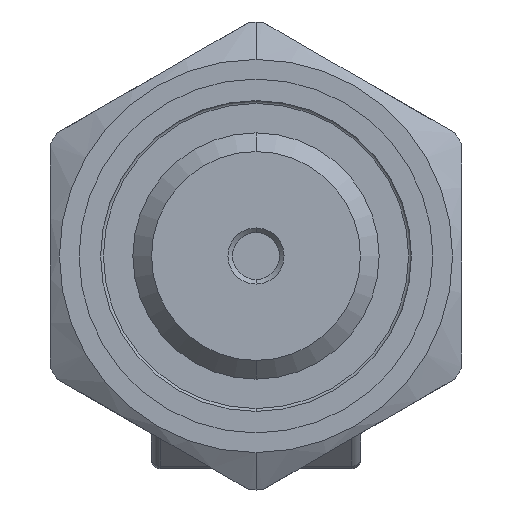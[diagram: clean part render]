
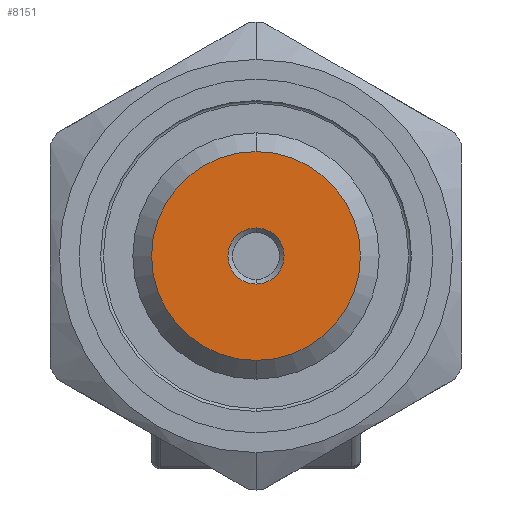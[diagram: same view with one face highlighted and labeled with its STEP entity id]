
A CAD part, front view. The second image highlights one B-rep face of the part: STEP entity #8151.
In plain terms, the highlighted planar face has unit normal (0, -1, 0).
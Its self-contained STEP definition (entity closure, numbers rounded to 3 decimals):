
#548 = DIRECTION ( 'NONE',  ( 0., -1., 0. ) ) ;
#642 = CARTESIAN_POINT ( 'NONE',  ( 0., 0., 0. ) ) ;
#810 = CARTESIAN_POINT ( 'NONE',  ( 0., 0., 0. ) ) ;
#1063 = EDGE_LOOP ( 'NONE', ( #14926, #6543 ) ) ;
#1438 = ORIENTED_EDGE ( 'NONE', *, *, #9059, .T. ) ;
#1863 = EDGE_LOOP ( 'NONE', ( #1438, #6686 ) ) ;
#1874 = DIRECTION ( 'NONE',  ( 0., 0., -1. ) ) ;
#2034 = DIRECTION ( 'NONE',  ( 0., 0., -1. ) ) ;
#2984 = EDGE_CURVE ( 'NONE', #7278, #15551, #15213, .T. ) ;
#3501 = DIRECTION ( 'NONE',  ( 0., -1., 0. ) ) ;
#3748 = DIRECTION ( 'NONE',  ( 0., -1., 0. ) ) ;
#4272 = AXIS2_PLACEMENT_3D ( 'NONE', #642, #9355, #1874 ) ;
#5482 = CIRCLE ( 'NONE', #6313, 5.579 ) ;
#6313 = AXIS2_PLACEMENT_3D ( 'NONE', #11217, #3748, #12477 ) ;
#6543 = ORIENTED_EDGE ( 'NONE', *, *, #2984, .T. ) ;
#6632 = EDGE_CURVE ( 'NONE', #10127, #15796, #11436, .T. ) ;
#6686 = ORIENTED_EDGE ( 'NONE', *, *, #6632, .T. ) ;
#6844 = CIRCLE ( 'NONE', #4272, 1.5 ) ;
#7278 = VERTEX_POINT ( 'NONE', #13858 ) ;
#7325 = FACE_BOUND ( 'NONE', #1063, .T. ) ;
#8151 = ADVANCED_FACE ( 'NONE', ( #7325, #13929 ), #12948, .T. ) ;
#9059 = EDGE_CURVE ( 'NONE', #15796, #10127, #5482, .T. ) ;
#9255 = DIRECTION ( 'NONE',  ( 0., 0., -1. ) ) ;
#9355 = DIRECTION ( 'NONE',  ( 0., 1., 0. ) ) ;
#9445 = CARTESIAN_POINT ( 'NONE',  ( 0., 0., 5.579 ) ) ;
#9525 = DIRECTION ( 'NONE',  ( 0., 1., 0. ) ) ;
#10127 = VERTEX_POINT ( 'NONE', #14819 ) ;
#10972 = CARTESIAN_POINT ( 'NONE',  ( 0., 0., 0. ) ) ;
#11115 = AXIS2_PLACEMENT_3D ( 'NONE', #14202, #548, #9255 ) ;
#11217 = CARTESIAN_POINT ( 'NONE',  ( 0., 0., 0. ) ) ;
#11436 = CIRCLE ( 'NONE', #14305, 5.579 ) ;
#12220 = DIRECTION ( 'NONE',  ( 0., 0., -1. ) ) ;
#12477 = DIRECTION ( 'NONE',  ( 0., 0., -1. ) ) ;
#12510 = CARTESIAN_POINT ( 'NONE',  ( 0., 0., -1.5 ) ) ;
#12816 = AXIS2_PLACEMENT_3D ( 'NONE', #810, #9525, #2034 ) ;
#12948 = PLANE ( 'NONE',  #11115 ) ;
#13858 = CARTESIAN_POINT ( 'NONE',  ( 0., 0., 1.5 ) ) ;
#13929 = FACE_OUTER_BOUND ( 'NONE', #1863, .T. ) ;
#14202 = CARTESIAN_POINT ( 'NONE',  ( 0., 0., 0. ) ) ;
#14305 = AXIS2_PLACEMENT_3D ( 'NONE', #10972, #3501, #12220 ) ;
#14335 = EDGE_CURVE ( 'NONE', #15551, #7278, #6844, .T. ) ;
#14819 = CARTESIAN_POINT ( 'NONE',  ( 0., 0., -5.579 ) ) ;
#14926 = ORIENTED_EDGE ( 'NONE', *, *, #14335, .T. ) ;
#15213 = CIRCLE ( 'NONE', #12816, 1.5 ) ;
#15551 = VERTEX_POINT ( 'NONE', #12510 ) ;
#15796 = VERTEX_POINT ( 'NONE', #9445 ) ;
